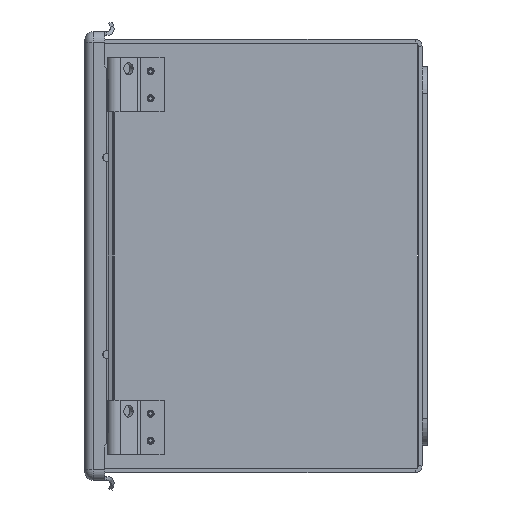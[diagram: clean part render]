
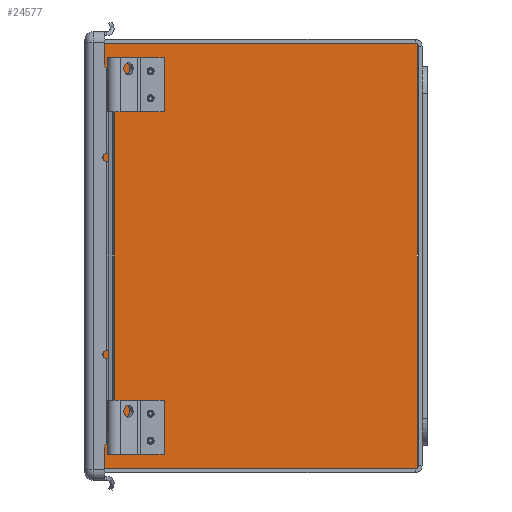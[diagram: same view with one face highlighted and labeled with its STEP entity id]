
A CAD part, left-side view. The second image highlights one B-rep face of the part: STEP entity #24577.
In plain terms, the highlighted planar face has unit normal (-1, 0, 0) as drawn and (0, 0, 1) by its records, which use the part's own axes.
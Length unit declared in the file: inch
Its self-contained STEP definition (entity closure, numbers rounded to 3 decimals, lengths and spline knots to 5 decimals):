
#85 = EDGE_CURVE ( 'NONE', #11255, #30435, #19512, .T. ) ;
#904 = VECTOR ( 'NONE', #3446, 39.37008 ) ;
#1115 = EDGE_CURVE ( 'NONE', #30435, #23532, #26313, .T. ) ;
#1510 = VECTOR ( 'NONE', #16457, 39.37008 ) ;
#2317 = CARTESIAN_POINT ( 'NONE',  ( -3.916, 2.8815, 0. ) ) ;
#3174 = CARTESIAN_POINT ( 'NONE',  ( 3.916, 2.8815, 0. ) ) ;
#3441 = LINE ( 'NONE', #8990, #21300 ) ;
#3446 = DIRECTION ( 'NONE',  ( 0., -1., 0. ) ) ;
#4064 = EDGE_CURVE ( 'NONE', #23532, #18325, #7949, .T. ) ;
#4349 = CARTESIAN_POINT ( 'NONE',  ( -3.916, 2.9655, 0. ) ) ;
#5557 = VECTOR ( 'NONE', #8812, 39.37008 ) ;
#6175 = ORIENTED_EDGE ( 'NONE', *, *, #85, .F. ) ;
#7104 = VECTOR ( 'NONE', #30340, 39.37008 ) ;
#7289 = EDGE_CURVE ( 'NONE', #28319, #11059, #19657, .T. ) ;
#7949 = LINE ( 'NONE', #4349, #1510 ) ;
#8450 = VECTOR ( 'NONE', #27007, 39.37008 ) ;
#8471 = EDGE_CURVE ( 'NONE', #23778, #26038, #12031, .T. ) ;
#8532 = EDGE_CURVE ( 'NONE', #23778, #11059, #23396, .T. ) ;
#8721 = CARTESIAN_POINT ( 'NONE',  ( 3.916, -2.9505, 0. ) ) ;
#8812 = DIRECTION ( 'NONE',  ( -1., 0., 0. ) ) ;
#8977 = ORIENTED_EDGE ( 'NONE', *, *, #7289, .F. ) ;
#8990 = CARTESIAN_POINT ( 'NONE',  ( 3.931, 2.8815, 0. ) ) ;
#9503 = VECTOR ( 'NONE', #13874, 39.37008 ) ;
#9835 = CARTESIAN_POINT ( 'NONE',  ( 3.931, 2.9655, 0. ) ) ;
#10266 = LINE ( 'NONE', #16306, #9503 ) ;
#10299 = FACE_OUTER_BOUND ( 'NONE', #11583, .T. ) ;
#10304 = ORIENTED_EDGE ( 'NONE', *, *, #4064, .F. ) ;
#10453 = ORIENTED_EDGE ( 'NONE', *, *, #24997, .F. ) ;
#11059 = VERTEX_POINT ( 'NONE', #16589 ) ;
#11255 = VERTEX_POINT ( 'NONE', #3174 ) ;
#11293 = CARTESIAN_POINT ( 'NONE',  ( 3.916, 2.9655, 0. ) ) ;
#11583 = EDGE_LOOP ( 'NONE', ( #10453, #10304, #26647, #6175, #13003, #23582, #12287, #8977 ) ) ;
#12031 = LINE ( 'NONE', #18344, #7104 ) ;
#12287 = ORIENTED_EDGE ( 'NONE', *, *, #8532, .T. ) ;
#12293 = DIRECTION ( 'NONE',  ( 0., 0., -1. ) ) ;
#12440 = VECTOR ( 'NONE', #28047, 39.37008 ) ;
#12449 = CARTESIAN_POINT ( 'NONE',  ( 3.931, -2.9505, 0. ) ) ;
#12941 = CARTESIAN_POINT ( 'NONE',  ( 3.596, 2.8815, 0. ) ) ;
#13003 = ORIENTED_EDGE ( 'NONE', *, *, #25277, .F. ) ;
#13874 = DIRECTION ( 'NONE',  ( 1., 0., 0. ) ) ;
#16306 = CARTESIAN_POINT ( 'NONE',  ( 3.931, 2.8815, 0. ) ) ;
#16457 = DIRECTION ( 'NONE',  ( 0., 1., 0. ) ) ;
#16589 = CARTESIAN_POINT ( 'NONE',  ( -3.596, 2.8365, 0. ) ) ;
#18219 = CARTESIAN_POINT ( 'NONE',  ( -3.596, 2.9655, 0. ) ) ;
#18325 = VERTEX_POINT ( 'NONE', #2317 ) ;
#18344 = CARTESIAN_POINT ( 'NONE',  ( 3.596, 2.9655, 0. ) ) ;
#19512 = LINE ( 'NONE', #11293, #904 ) ;
#19657 = LINE ( 'NONE', #18219, #12440 ) ;
#20471 = CARTESIAN_POINT ( 'NONE',  ( -3.916, -2.9505, 0. ) ) ;
#21086 = DIRECTION ( 'NONE',  ( 1., 0., 0. ) ) ;
#21300 = VECTOR ( 'NONE', #21086, 39.37008 ) ;
#23332 = CARTESIAN_POINT ( 'NONE',  ( 3.596, 2.8365, 0. ) ) ;
#23396 = LINE ( 'NONE', #23332, #5557 ) ;
#23532 = VERTEX_POINT ( 'NONE', #20471 ) ;
#23582 = ORIENTED_EDGE ( 'NONE', *, *, #8471, .F. ) ;
#23757 = CARTESIAN_POINT ( 'NONE',  ( 3.596, 2.8365, 0. ) ) ;
#23778 = VERTEX_POINT ( 'NONE', #23757 ) ;
#24371 = PLANE ( 'NONE',  #28717 ) ;
#24577 = ADVANCED_FACE ( 'NONE', ( #10299 ), #24371, .F. ) ;
#24997 = EDGE_CURVE ( 'NONE', #18325, #28319, #3441, .T. ) ;
#25022 = CARTESIAN_POINT ( 'NONE',  ( -3.596, 2.8815, 0. ) ) ;
#25277 = EDGE_CURVE ( 'NONE', #26038, #11255, #10266, .T. ) ;
#26038 = VERTEX_POINT ( 'NONE', #12941 ) ;
#26313 = LINE ( 'NONE', #12449, #8450 ) ;
#26647 = ORIENTED_EDGE ( 'NONE', *, *, #1115, .F. ) ;
#27007 = DIRECTION ( 'NONE',  ( -1., 0., 0. ) ) ;
#28047 = DIRECTION ( 'NONE',  ( 0., -1., 0. ) ) ;
#28319 = VERTEX_POINT ( 'NONE', #25022 ) ;
#28717 = AXIS2_PLACEMENT_3D ( 'NONE', #9835, #12293, #29333 ) ;
#29333 = DIRECTION ( 'NONE',  ( -1., 0., 0. ) ) ;
#30340 = DIRECTION ( 'NONE',  ( 0., 1., 0. ) ) ;
#30435 = VERTEX_POINT ( 'NONE', #8721 ) ;
